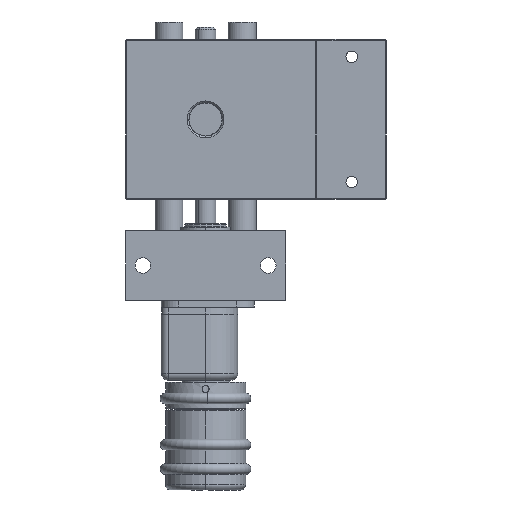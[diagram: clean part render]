
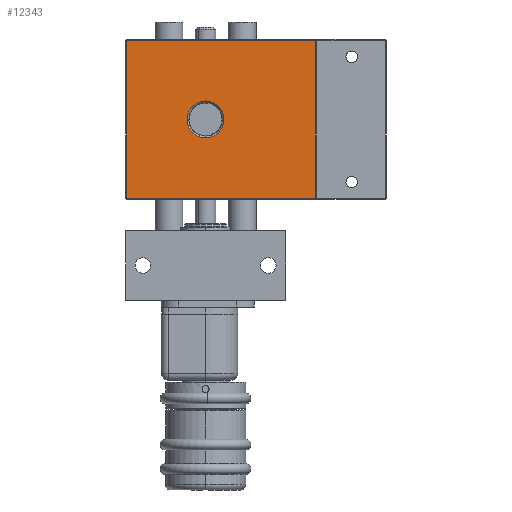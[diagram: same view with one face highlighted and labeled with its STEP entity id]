
A CAD part, front view. The second image highlights one B-rep face of the part: STEP entity #12343.
In plain terms, the highlighted planar face has unit normal (0, -1, 0) as drawn and (0, 1, 0) by its records, which use the part's own axes.
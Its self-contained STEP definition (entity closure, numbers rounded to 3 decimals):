
#55 = CARTESIAN_POINT ( 'NONE',  ( -32., 7., -22.7 ) ) ;
#284 = CARTESIAN_POINT ( 'NONE',  ( 0., 7., -5.3 ) ) ;
#934 = AXIS2_PLACEMENT_3D ( 'NONE', #9399, #3421, #10373 ) ;
#954 = CARTESIAN_POINT ( 'NONE',  ( 0., 7., 5.3 ) ) ;
#965 = EDGE_CURVE ( 'NONE', #1025, #11692, #5003, .T. ) ;
#1025 = VERTEX_POINT ( 'NONE', #10738 ) ;
#1231 = ORIENTED_EDGE ( 'NONE', *, *, #965, .T. ) ;
#1234 = DIRECTION ( 'NONE',  ( 0., 0., 1. ) ) ;
#1298 = FACE_OUTER_BOUND ( 'NONE', #7169, .T. ) ;
#1533 = EDGE_CURVE ( 'NONE', #7648, #1713, #4037, .T. ) ;
#1697 = DIRECTION ( 'NONE',  ( 0., 0., -1. ) ) ;
#1713 = VERTEX_POINT ( 'NONE', #954 ) ;
#1812 = VECTOR ( 'NONE', #6902, 1000. ) ;
#1946 = CARTESIAN_POINT ( 'NONE',  ( 0., 7., 0. ) ) ;
#2166 = DIRECTION ( 'NONE',  ( 0., 0., -1. ) ) ;
#2209 = VERTEX_POINT ( 'NONE', #5192 ) ;
#2249 = CARTESIAN_POINT ( 'NONE',  ( 22.7, 7., 22.7 ) ) ;
#2577 = CARTESIAN_POINT ( 'NONE',  ( -31.7, 7., -22.7 ) ) ;
#2956 = DIRECTION ( 'NONE',  ( 0., 0., -1. ) ) ;
#3048 = EDGE_CURVE ( 'NONE', #2209, #3245, #4468, .T. ) ;
#3245 = VERTEX_POINT ( 'NONE', #2249 ) ;
#3421 = DIRECTION ( 'NONE',  ( 0., -1., 0. ) ) ;
#4037 = CIRCLE ( 'NONE', #934, 5.3 ) ;
#4468 = LINE ( 'NONE', #8855, #1812 ) ;
#5003 = LINE ( 'NONE', #55, #7014 ) ;
#5192 = CARTESIAN_POINT ( 'NONE',  ( -31.7, 7., 22.7 ) ) ;
#6075 = LINE ( 'NONE', #7196, #11345 ) ;
#6528 = ORIENTED_EDGE ( 'NONE', *, *, #1533, .T. ) ;
#6580 = FACE_BOUND ( 'NONE', #11133, .T. ) ;
#6658 = PLANE ( 'NONE',  #7889 ) ;
#6902 = DIRECTION ( 'NONE',  ( 1., 0., 0. ) ) ;
#7014 = VECTOR ( 'NONE', #11950, 1000. ) ;
#7135 = CARTESIAN_POINT ( 'NONE',  ( 22.7, 7., -23. ) ) ;
#7169 = EDGE_LOOP ( 'NONE', ( #1231, #10282, #10008, #11924 ) ) ;
#7196 = CARTESIAN_POINT ( 'NONE',  ( -31.7, 7., 22.7 ) ) ;
#7648 = VERTEX_POINT ( 'NONE', #284 ) ;
#7660 = DIRECTION ( 'NONE',  ( 0., 1., 0. ) ) ;
#7889 = AXIS2_PLACEMENT_3D ( 'NONE', #11586, #7660, #1697 ) ;
#8778 = AXIS2_PLACEMENT_3D ( 'NONE', #1946, #8916, #2956 ) ;
#8855 = CARTESIAN_POINT ( 'NONE',  ( 23., 7., 22.7 ) ) ;
#8916 = DIRECTION ( 'NONE',  ( 0., -1., 0. ) ) ;
#8998 = EDGE_CURVE ( 'NONE', #1713, #7648, #12577, .T. ) ;
#9153 = EDGE_CURVE ( 'NONE', #11692, #2209, #6075, .T. ) ;
#9399 = CARTESIAN_POINT ( 'NONE',  ( 0., 7., 0. ) ) ;
#10008 = ORIENTED_EDGE ( 'NONE', *, *, #3048, .T. ) ;
#10282 = ORIENTED_EDGE ( 'NONE', *, *, #9153, .T. ) ;
#10373 = DIRECTION ( 'NONE',  ( 0., 0., -1. ) ) ;
#10437 = ORIENTED_EDGE ( 'NONE', *, *, #8998, .T. ) ;
#10473 = VECTOR ( 'NONE', #2166, 1000. ) ;
#10738 = CARTESIAN_POINT ( 'NONE',  ( 22.7, 7., -22.7 ) ) ;
#11133 = EDGE_LOOP ( 'NONE', ( #6528, #10437 ) ) ;
#11234 = EDGE_CURVE ( 'NONE', #3245, #1025, #12804, .T. ) ;
#11345 = VECTOR ( 'NONE', #1234, 1000. ) ;
#11586 = CARTESIAN_POINT ( 'NONE',  ( -52., 7., -23. ) ) ;
#11692 = VERTEX_POINT ( 'NONE', #2577 ) ;
#11924 = ORIENTED_EDGE ( 'NONE', *, *, #11234, .T. ) ;
#11950 = DIRECTION ( 'NONE',  ( -1., 0., 0. ) ) ;
#12343 = ADVANCED_FACE ( 'NONE', ( #6580, #1298 ), #6658, .T. ) ;
#12577 = CIRCLE ( 'NONE', #8778, 5.3 ) ;
#12804 = LINE ( 'NONE', #7135, #10473 ) ;
